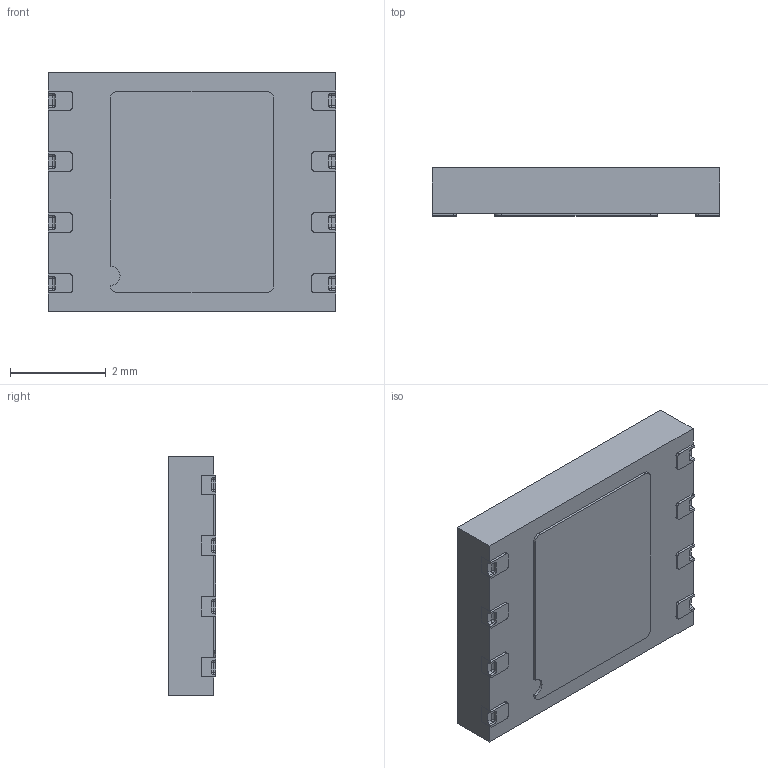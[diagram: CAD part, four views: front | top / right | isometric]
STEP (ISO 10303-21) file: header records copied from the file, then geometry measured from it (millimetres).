
FILE_DESCRIPTION (( 'STEP AP214' ), '1' );
FILE_NAME ('ST4SI2M0020TPIFW.STEP', '2024-02-02T13:22:39', ( 'LENOVO' ), ( '' ), 'SwSTEP 2.0', 'SolidWorks 2021', '' );
FILE_SCHEMA (( 'AUTOMOTIVE_DESIGN' ));
Length unit declared in the file: millimetre
Products named in the file (1): ST4SI2M0020TPIFW
Bounding box: 6 x 1 x 5 mm (x, y, z)
Volume: 29.3 mm3; surface area: 127.6 mm2
Topology: 11 solids, 11 shells, 234 faces, 598 edges, 372 vertices
Faces by surface type: plane 132, cylinder 86, sphere 16
Entity records: 7038 total; most frequent: DIRECTION 1224, CARTESIAN_POINT 1189, ORIENTED_EDGE 1164, EDGE_CURVE 582, LINE 410, VECTOR 410, AXIS2_PLACEMENT_3D 407, VERTEX_POINT 372
